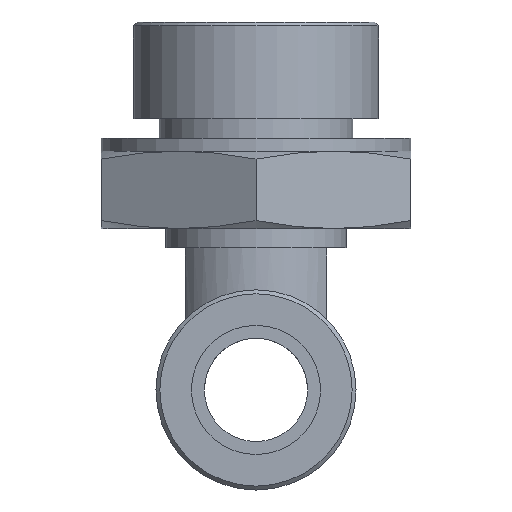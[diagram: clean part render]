
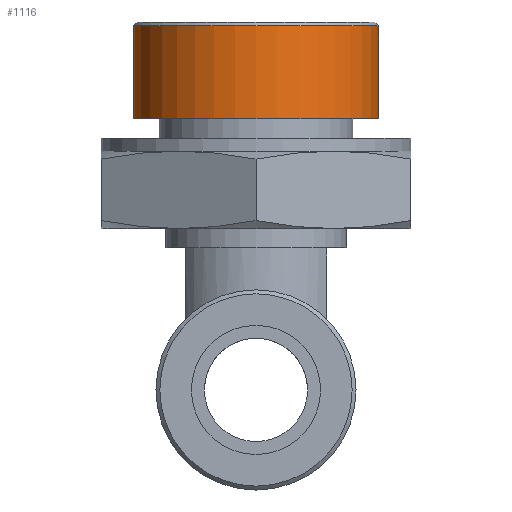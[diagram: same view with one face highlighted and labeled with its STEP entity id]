
A CAD part, front view. The second image highlights one B-rep face of the part: STEP entity #1116.
In plain terms, the highlighted cylindrical face has radius 9.5 mm (diameter 19 mm), a full revolution.
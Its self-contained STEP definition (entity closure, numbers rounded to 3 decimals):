
#150=FACE_OUTER_BOUND('',#234,.T.);
#234=EDGE_LOOP('',(#821,#822,#823,#824,#825));
#319=LINE('',#1911,#365);
#365=VECTOR('',#1531,9.5);
#428=CIRCLE('',#1293,9.5);
#429=CIRCLE('',#1294,9.5);
#430=CIRCLE('',#1297,9.5);
#514=VERTEX_POINT('',#1903);
#515=VERTEX_POINT('',#1905);
#516=VERTEX_POINT('',#1910);
#626=EDGE_CURVE('',#514,#515,#428,.T.);
#627=EDGE_CURVE('',#515,#514,#429,.T.);
#628=EDGE_CURVE('',#515,#516,#319,.T.);
#629=EDGE_CURVE('',#516,#516,#430,.T.);
#821=ORIENTED_EDGE('',*,*,#626,.F.);
#822=ORIENTED_EDGE('',*,*,#627,.F.);
#823=ORIENTED_EDGE('',*,*,#628,.T.);
#824=ORIENTED_EDGE('',*,*,#629,.T.);
#825=ORIENTED_EDGE('',*,*,#628,.F.);
#1083=CYLINDRICAL_SURFACE('',#1296,9.5);
#1116=ADVANCED_FACE('',(#150),#1083,.T.);
#1293=AXIS2_PLACEMENT_3D('',#1906,#1523,#1524);
#1294=AXIS2_PLACEMENT_3D('',#1907,#1525,#1526);
#1296=AXIS2_PLACEMENT_3D('',#1909,#1529,#1530);
#1297=AXIS2_PLACEMENT_3D('',#1912,#1532,#1533);
#1523=DIRECTION('center_axis',(0.,0.,1.));
#1524=DIRECTION('ref_axis',(1.,0.,0.));
#1525=DIRECTION('center_axis',(0.,0.,1.));
#1526=DIRECTION('ref_axis',(1.,0.,0.));
#1529=DIRECTION('center_axis',(0.,0.,1.));
#1530=DIRECTION('ref_axis',(-1.,0.,0.));
#1531=DIRECTION('',(0.,0.,-1.));
#1532=DIRECTION('center_axis',(0.,0.,1.));
#1533=DIRECTION('ref_axis',(1.,0.,0.));
#1903=CARTESIAN_POINT('',(-9.5,0.,28.2));
#1905=CARTESIAN_POINT('',(9.5,0.,28.2));
#1906=CARTESIAN_POINT('Origin',(0.,0.,28.2));
#1907=CARTESIAN_POINT('Origin',(0.,0.,28.2));
#1909=CARTESIAN_POINT('Origin',(0.,0.,24.75));
#1910=CARTESIAN_POINT('',(9.5,0.,21.));
#1911=CARTESIAN_POINT('',(9.5,0.,24.75));
#1912=CARTESIAN_POINT('Origin',(0.,0.,21.));
